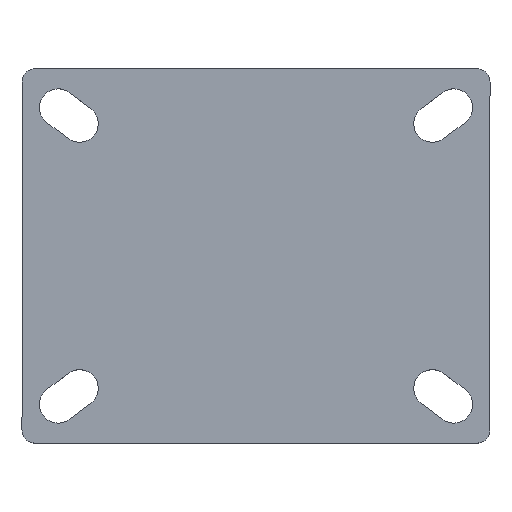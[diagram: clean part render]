
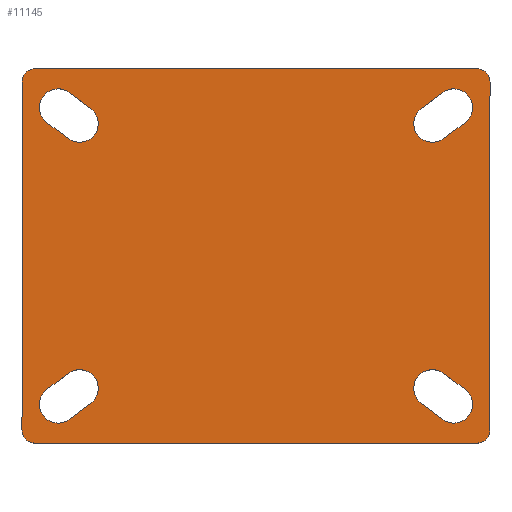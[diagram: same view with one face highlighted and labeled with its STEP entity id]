
A CAD part, top view. The second image highlights one B-rep face of the part: STEP entity #11145.
In plain terms, the highlighted planar face has unit normal (0, 0, 1).
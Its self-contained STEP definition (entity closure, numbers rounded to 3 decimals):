
#768=FACE_BOUND('',#4005,.T.);
#769=FACE_BOUND('',#4006,.T.);
#770=FACE_BOUND('',#4007,.T.);
#771=FACE_BOUND('',#4008,.T.);
#1683=LINE('',#18896,#2673);
#1686=LINE('',#18904,#2676);
#1689=LINE('',#18912,#2679);
#1692=LINE('',#18920,#2682);
#1695=LINE('',#18928,#2685);
#1698=LINE('',#18936,#2688);
#1701=LINE('',#18944,#2691);
#1704=LINE('',#18952,#2694);
#1708=LINE('',#18964,#2698);
#1711=LINE('',#18972,#2701);
#1714=LINE('',#18980,#2704);
#1717=LINE('',#18987,#2707);
#2673=VECTOR('',#13625,10.);
#2676=VECTOR('',#13634,10.);
#2679=VECTOR('',#13643,10.);
#2682=VECTOR('',#13652,10.);
#2685=VECTOR('',#13661,10.);
#2688=VECTOR('',#13670,10.);
#2691=VECTOR('',#13679,10.);
#2694=VECTOR('',#13688,10.);
#2698=VECTOR('',#13702,10.);
#2701=VECTOR('',#13711,10.);
#2704=VECTOR('',#13720,10.);
#2707=VECTOR('',#13729,10.);
#3347=FACE_OUTER_BOUND('',#4004,.T.);
#4004=EDGE_LOOP('',(#9952,#9953,#9954,#9955,#9956,#9957,#9958,#9959));
#4005=EDGE_LOOP('',(#9960,#9961,#9962,#9963));
#4006=EDGE_LOOP('',(#9964,#9965,#9966,#9967));
#4007=EDGE_LOOP('',(#9968,#9969,#9970,#9971));
#4008=EDGE_LOOP('',(#9972,#9973,#9974,#9975));
#4206=CIRCLE('',#11676,7.);
#4207=CIRCLE('',#11679,7.);
#4208=CIRCLE('',#11682,7.);
#4209=CIRCLE('',#11685,7.);
#4210=CIRCLE('',#11688,7.);
#4211=CIRCLE('',#11691,7.);
#4212=CIRCLE('',#11694,7.);
#4213=CIRCLE('',#11697,7.);
#4214=CIRCLE('',#11699,5.);
#4215=CIRCLE('',#11702,5.);
#4216=CIRCLE('',#11705,5.);
#4217=CIRCLE('',#11708,5.);
#5261=VERTEX_POINT('',#18893);
#5262=VERTEX_POINT('',#18895);
#5263=VERTEX_POINT('',#18899);
#5264=VERTEX_POINT('',#18903);
#5265=VERTEX_POINT('',#18909);
#5266=VERTEX_POINT('',#18911);
#5267=VERTEX_POINT('',#18915);
#5268=VERTEX_POINT('',#18919);
#5269=VERTEX_POINT('',#18925);
#5270=VERTEX_POINT('',#18927);
#5271=VERTEX_POINT('',#18931);
#5272=VERTEX_POINT('',#18935);
#5273=VERTEX_POINT('',#18941);
#5274=VERTEX_POINT('',#18943);
#5275=VERTEX_POINT('',#18947);
#5276=VERTEX_POINT('',#18951);
#5277=VERTEX_POINT('',#18957);
#5278=VERTEX_POINT('',#18959);
#5279=VERTEX_POINT('',#18963);
#5280=VERTEX_POINT('',#18967);
#5281=VERTEX_POINT('',#18971);
#5282=VERTEX_POINT('',#18975);
#5283=VERTEX_POINT('',#18979);
#5284=VERTEX_POINT('',#18983);
#6824=EDGE_CURVE('',#5262,#5261,#1683,.T.);
#6826=EDGE_CURVE('',#5263,#5262,#4206,.T.);
#6828=EDGE_CURVE('',#5264,#5263,#1686,.T.);
#6830=EDGE_CURVE('',#5261,#5264,#4207,.T.);
#6832=EDGE_CURVE('',#5266,#5265,#1689,.T.);
#6834=EDGE_CURVE('',#5267,#5266,#4208,.T.);
#6836=EDGE_CURVE('',#5268,#5267,#1692,.T.);
#6838=EDGE_CURVE('',#5265,#5268,#4209,.T.);
#6840=EDGE_CURVE('',#5270,#5269,#1695,.T.);
#6842=EDGE_CURVE('',#5271,#5270,#4210,.T.);
#6844=EDGE_CURVE('',#5272,#5271,#1698,.T.);
#6846=EDGE_CURVE('',#5269,#5272,#4211,.T.);
#6848=EDGE_CURVE('',#5274,#5273,#1701,.T.);
#6850=EDGE_CURVE('',#5275,#5274,#4212,.T.);
#6852=EDGE_CURVE('',#5276,#5275,#1704,.T.);
#6854=EDGE_CURVE('',#5273,#5276,#4213,.T.);
#6856=EDGE_CURVE('',#5278,#5277,#4214,.T.);
#6858=EDGE_CURVE('',#5279,#5278,#1708,.T.);
#6860=EDGE_CURVE('',#5280,#5279,#4215,.T.);
#6862=EDGE_CURVE('',#5281,#5280,#1711,.T.);
#6864=EDGE_CURVE('',#5282,#5281,#4216,.T.);
#6866=EDGE_CURVE('',#5283,#5282,#1714,.T.);
#6868=EDGE_CURVE('',#5284,#5283,#4217,.T.);
#6870=EDGE_CURVE('',#5277,#5284,#1717,.T.);
#9952=ORIENTED_EDGE('',*,*,#6870,.T.);
#9953=ORIENTED_EDGE('',*,*,#6868,.T.);
#9954=ORIENTED_EDGE('',*,*,#6866,.T.);
#9955=ORIENTED_EDGE('',*,*,#6864,.T.);
#9956=ORIENTED_EDGE('',*,*,#6862,.T.);
#9957=ORIENTED_EDGE('',*,*,#6860,.T.);
#9958=ORIENTED_EDGE('',*,*,#6858,.T.);
#9959=ORIENTED_EDGE('',*,*,#6856,.T.);
#9960=ORIENTED_EDGE('',*,*,#6854,.T.);
#9961=ORIENTED_EDGE('',*,*,#6852,.T.);
#9962=ORIENTED_EDGE('',*,*,#6850,.T.);
#9963=ORIENTED_EDGE('',*,*,#6848,.T.);
#9964=ORIENTED_EDGE('',*,*,#6846,.T.);
#9965=ORIENTED_EDGE('',*,*,#6844,.T.);
#9966=ORIENTED_EDGE('',*,*,#6842,.T.);
#9967=ORIENTED_EDGE('',*,*,#6840,.T.);
#9968=ORIENTED_EDGE('',*,*,#6838,.T.);
#9969=ORIENTED_EDGE('',*,*,#6836,.T.);
#9970=ORIENTED_EDGE('',*,*,#6834,.T.);
#9971=ORIENTED_EDGE('',*,*,#6832,.T.);
#9972=ORIENTED_EDGE('',*,*,#6830,.T.);
#9973=ORIENTED_EDGE('',*,*,#6828,.T.);
#9974=ORIENTED_EDGE('',*,*,#6826,.T.);
#9975=ORIENTED_EDGE('',*,*,#6824,.T.);
#10573=PLANE('',#11710);
#11145=ADVANCED_FACE('',(#3347,#768,#769,#770,#771),#10573,.T.);
#11676=AXIS2_PLACEMENT_3D('',#18900,#13629,#13630);
#11679=AXIS2_PLACEMENT_3D('',#18907,#13638,#13639);
#11682=AXIS2_PLACEMENT_3D('',#18916,#13647,#13648);
#11685=AXIS2_PLACEMENT_3D('',#18923,#13656,#13657);
#11688=AXIS2_PLACEMENT_3D('',#18932,#13665,#13666);
#11691=AXIS2_PLACEMENT_3D('',#18939,#13674,#13675);
#11694=AXIS2_PLACEMENT_3D('',#18948,#13683,#13684);
#11697=AXIS2_PLACEMENT_3D('',#18955,#13692,#13693);
#11699=AXIS2_PLACEMENT_3D('',#18960,#13697,#13698);
#11702=AXIS2_PLACEMENT_3D('',#18968,#13706,#13707);
#11705=AXIS2_PLACEMENT_3D('',#18976,#13715,#13716);
#11708=AXIS2_PLACEMENT_3D('',#18984,#13724,#13725);
#11710=AXIS2_PLACEMENT_3D('',#18988,#13730,#13731);
#13625=DIRECTION('',(0.8,-0.6,0.));
#13629=DIRECTION('center_axis',(0.,0.,
-1.));
#13630=DIRECTION('ref_axis',(-0.6,-0.8,0.));
#13634=DIRECTION('',(-0.8,0.6,0.));
#13638=DIRECTION('center_axis',(0.,0.,
-1.));
#13639=DIRECTION('ref_axis',(0.6,0.8,0.));
#13643=DIRECTION('',(-0.8,-0.6,0.));
#13647=DIRECTION('center_axis',(0.,0.,
-1.));
#13648=DIRECTION('ref_axis',(-0.6,0.8,0.));
#13652=DIRECTION('',(0.8,0.6,0.));
#13656=DIRECTION('center_axis',(0.,0.,
-1.));
#13657=DIRECTION('ref_axis',(0.6,-0.8,0.));
#13661=DIRECTION('',(-0.8,0.6,0.));
#13665=DIRECTION('center_axis',(0.,0.,
-1.));
#13666=DIRECTION('ref_axis',(0.6,0.8,0.));
#13670=DIRECTION('',(0.8,-0.6,0.));
#13674=DIRECTION('center_axis',(0.,0.,
-1.));
#13675=DIRECTION('ref_axis',(-0.6,-0.8,0.));
#13679=DIRECTION('',(-0.8,-0.6,0.));
#13683=DIRECTION('center_axis',(0.,0.,
-1.));
#13684=DIRECTION('ref_axis',(-0.6,0.8,0.));
#13688=DIRECTION('',(0.8,0.6,0.));
#13692=DIRECTION('center_axis',(0.,0.,
-1.));
#13693=DIRECTION('ref_axis',(0.6,-0.8,0.));
#13697=DIRECTION('center_axis',(0.,0.,
1.));
#13698=DIRECTION('ref_axis',(-1.,0.,0.));
#13702=DIRECTION('',(0.,-1.,0.));
#13706=DIRECTION('center_axis',(0.,0.,
1.));
#13707=DIRECTION('ref_axis',(0.,1.,0.));
#13711=DIRECTION('',(-1.,0.,0.));
#13715=DIRECTION('center_axis',(0.,0.,
1.));
#13716=DIRECTION('ref_axis',(1.,0.,0.));
#13720=DIRECTION('',(0.,1.,0.));
#13724=DIRECTION('center_axis',(0.,0.,
1.));
#13725=DIRECTION('ref_axis',(0.,-1.,0.));
#13729=DIRECTION('',(1.,0.,0.));
#13730=DIRECTION('center_axis',(0.,0.,
1.));
#13731=DIRECTION('ref_axis',(1.,0.,0.));
#18893=CARTESIAN_POINT('',(78.2,-49.9,10.));
#18895=CARTESIAN_POINT('',(70.2,-43.9,10.));
#18896=CARTESIAN_POINT('',(70.2,-43.9,10.));
#18899=CARTESIAN_POINT('',(61.8,-55.1,10.));
#18900=CARTESIAN_POINT('Origin',(66.,-49.5,10.));
#18903=CARTESIAN_POINT('',(69.8,-61.1,10.));
#18904=CARTESIAN_POINT('',(69.8,-61.1,10.));
#18907=CARTESIAN_POINT('Origin',(74.,-55.5,10.));
#18909=CARTESIAN_POINT('',(70.2,43.9,10.));
#18911=CARTESIAN_POINT('',(78.2,49.9,10.));
#18912=CARTESIAN_POINT('',(78.2,49.9,10.));
#18915=CARTESIAN_POINT('',(69.8,61.1,10.));
#18916=CARTESIAN_POINT('Origin',(74.,55.5,10.));
#18919=CARTESIAN_POINT('',(61.8,55.1,10.));
#18920=CARTESIAN_POINT('',(61.8,55.1,10.));
#18923=CARTESIAN_POINT('Origin',(66.,49.5,10.));
#18925=CARTESIAN_POINT('',(-78.2,49.9,10.));
#18927=CARTESIAN_POINT('',(-70.2,43.9,10.));
#18928=CARTESIAN_POINT('',(-70.2,43.9,10.));
#18931=CARTESIAN_POINT('',(-61.8,55.1,10.));
#18932=CARTESIAN_POINT('Origin',(-66.,49.5,10.));
#18935=CARTESIAN_POINT('',(-69.8,61.1,10.));
#18936=CARTESIAN_POINT('',(-69.8,61.1,10.));
#18939=CARTESIAN_POINT('Origin',(-74.,55.5,10.));
#18941=CARTESIAN_POINT('',(-69.8,-61.1,10.));
#18943=CARTESIAN_POINT('',(-61.8,-55.1,10.));
#18944=CARTESIAN_POINT('',(-61.8,-55.1,10.));
#18947=CARTESIAN_POINT('',(-70.2,-43.9,10.));
#18948=CARTESIAN_POINT('Origin',(-66.,-49.5,10.));
#18951=CARTESIAN_POINT('',(-78.2,-49.9,10.));
#18952=CARTESIAN_POINT('',(-78.2,-49.9,10.));
#18955=CARTESIAN_POINT('Origin',(-74.,-55.5,10.));
#18957=CARTESIAN_POINT('',(-82.5,-70.,10.));
#18959=CARTESIAN_POINT('',(-87.5,-65.,10.));
#18960=CARTESIAN_POINT('Origin',(-82.5,-65.,10.));
#18963=CARTESIAN_POINT('',(-87.5,65.,10.));
#18964=CARTESIAN_POINT('',(-87.5,65.,10.));
#18967=CARTESIAN_POINT('',(-82.5,70.,10.));
#18968=CARTESIAN_POINT('Origin',(-82.5,65.,10.));
#18971=CARTESIAN_POINT('',(82.5,70.,10.));
#18972=CARTESIAN_POINT('',(82.5,70.,10.));
#18975=CARTESIAN_POINT('',(87.5,65.,10.));
#18976=CARTESIAN_POINT('Origin',(82.5,65.,10.));
#18979=CARTESIAN_POINT('',(87.5,-65.,10.));
#18980=CARTESIAN_POINT('',(87.5,-65.,10.));
#18983=CARTESIAN_POINT('',(82.5,-70.,10.));
#18984=CARTESIAN_POINT('Origin',(82.5,-65.,10.));
#18987=CARTESIAN_POINT('',(-82.5,-70.,10.));
#18988=CARTESIAN_POINT('Origin',(0.,0.,
10.));
